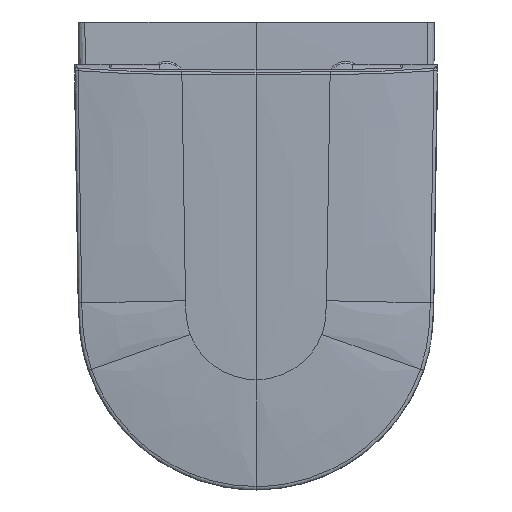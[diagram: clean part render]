
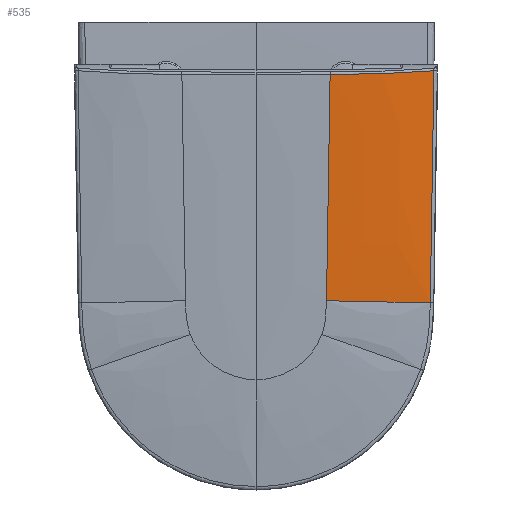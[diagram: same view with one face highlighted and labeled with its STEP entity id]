
A CAD part, top view. The second image highlights one B-rep face of the part: STEP entity #535.
In plain terms, the highlighted free-form (B-spline) face has degree [4, 3] with [5, 4] control points.
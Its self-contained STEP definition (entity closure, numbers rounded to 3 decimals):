
#535=ADVANCED_FACE('',(#1947),#19912,.T.);
#1947=FACE_OUTER_BOUND('',#3361,.T.);
#3361=EDGE_LOOP('',(#5255,#5256,#5257,#5258));
#5255=ORIENTED_EDGE('',*,*,#11410,.F.);
#5256=ORIENTED_EDGE('',*,*,#11595,.T.);
#5257=ORIENTED_EDGE('',*,*,#11596,.F.);
#5258=ORIENTED_EDGE('',*,*,#11424,.F.);
#11410=EDGE_CURVE('',#17855,#17856,#14757,.T.);
#11424=EDGE_CURVE('',#17856,#17878,#14771,.T.);
#11595=EDGE_CURVE('',#17855,#17973,#14923,.T.);
#11596=EDGE_CURVE('',#17878,#17973,#14924,.T.);
#14757=B_SPLINE_CURVE_WITH_KNOTS('',6,(#27293,#27294,#27295,#27296,#27297,
#27298,#27299),.UNSPECIFIED.,.F.,.F.,(7,7),(-11.201,-0.332),
 .UNSPECIFIED.);
#14771=B_SPLINE_CURVE_WITH_KNOTS('',3,(#27361,#27362,#27363,#27364),
 .UNSPECIFIED.,.F.,.F.,(4,4),(0.087,24.17),
 .UNSPECIFIED.);
#14923=B_SPLINE_CURVE_WITH_KNOTS('',4,(#28429,#28430,#28431,#28432,#28433),
 .UNSPECIFIED.,.F.,.F.,(5,5),(0.058,1.),.UNSPECIFIED.);
#14924=B_SPLINE_CURVE_WITH_KNOTS('',3,(#28434,#28435,#28436,#28437),
 .UNSPECIFIED.,.F.,.F.,(4,4),(-1.369,0.),.UNSPECIFIED.);
#17855=VERTEX_POINT('',#26883);
#17856=VERTEX_POINT('',#26884);
#17878=VERTEX_POINT('',#26906);
#17973=VERTEX_POINT('',#27001);
#19912=B_SPLINE_SURFACE_WITH_KNOTS('',4,3,((#25167,#25168,#25169,#25170),
(#25171,#25172,#25173,#25174),(#25175,#25176,#25177,#25178),(#25179,#25180,
#25181,#25182),(#25183,#25184,#25185,#25186)),.UNSPECIFIED.,.F.,.F.,.F.,
(5,5),(4,4),(0.,251.962),(0.,112.212),
 .UNSPECIFIED.);
#25167=CARTESIAN_POINT('',(76.756,200.255,227.054));
#25168=CARTESIAN_POINT('',(113.789,200.365,226.719));
#25169=CARTESIAN_POINT('',(153.941,200.484,226.113));
#25170=CARTESIAN_POINT('',(188.143,200.586,218.585));
#25171=CARTESIAN_POINT('',(76.055,137.979,224.893));
#25172=CARTESIAN_POINT('',(113.086,137.865,224.259));
#25173=CARTESIAN_POINT('',(153.237,137.742,223.113));
#25174=CARTESIAN_POINT('',(187.437,137.636,216.324));
#25175=CARTESIAN_POINT('',(75.169,75.693,222.388));
#25176=CARTESIAN_POINT('',(112.197,75.36,221.64));
#25177=CARTESIAN_POINT('',(152.345,74.999,220.291));
#25178=CARTESIAN_POINT('',(186.543,74.692,214.063));
#25179=CARTESIAN_POINT('',(74.094,13.401,219.642));
#25180=CARTESIAN_POINT('',(111.12,12.853,218.858));
#25181=CARTESIAN_POINT('',(151.265,12.259,217.438));
#25182=CARTESIAN_POINT('',(185.461,11.753,211.802));
#25183=CARTESIAN_POINT('',(72.837,-48.896,216.487));
#25184=CARTESIAN_POINT('',(109.858,-49.656,215.758));
#25185=CARTESIAN_POINT('',(149.998,-50.48,214.446));
#25186=CARTESIAN_POINT('',(184.189,-51.181,209.542));
#26883=CARTESIAN_POINT('',(76.59,185.797,226.546));
#26884=CARTESIAN_POINT('',(184.265,189.585,218.971));
#26906=CARTESIAN_POINT('',(180.47,-51.105,210.058));
#27001=CARTESIAN_POINT('',(72.837,-48.896,216.487));
#27293=CARTESIAN_POINT('',(76.59,185.797,226.546));
#27294=CARTESIAN_POINT('',(94.62,185.904,226.353));
#27295=CARTESIAN_POINT('',(112.647,186.038,226.106));
#27296=CARTESIAN_POINT('',(130.678,186.379,225.531));
#27297=CARTESIAN_POINT('',(148.674,186.983,224.397));
#27298=CARTESIAN_POINT('',(166.633,188.102,222.439));
#27299=CARTESIAN_POINT('',(184.265,189.585,218.971));
#27361=CARTESIAN_POINT('',(184.265,189.585,218.971));
#27362=CARTESIAN_POINT('',(183.343,109.35,215.992));
#27363=CARTESIAN_POINT('',(182.086,29.118,213.039));
#27364=CARTESIAN_POINT('',(180.47,-51.105,210.058));
#28429=CARTESIAN_POINT('',(76.59,185.797,226.546));
#28430=CARTESIAN_POINT('',(75.898,127.134,224.454));
#28431=CARTESIAN_POINT('',(75.043,68.462,222.068));
#28432=CARTESIAN_POINT('',(74.021,9.785,219.459));
#28433=CARTESIAN_POINT('',(72.837,-48.896,216.487));
#28434=CARTESIAN_POINT('',(180.47,-51.105,210.058));
#28435=CARTESIAN_POINT('',(147.109,-50.42,214.54));
#28436=CARTESIAN_POINT('',(108.524,-49.628,215.785));
#28437=CARTESIAN_POINT('',(72.837,-48.896,216.487));
